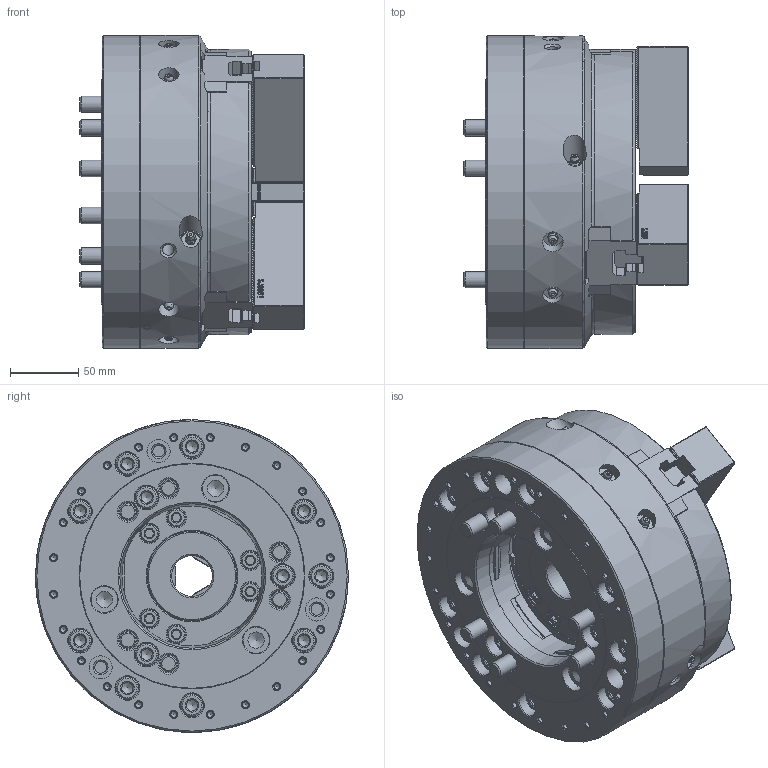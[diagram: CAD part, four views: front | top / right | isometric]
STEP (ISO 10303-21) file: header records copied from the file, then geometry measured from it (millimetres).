
FILE_DESCRIPTION (( 'STEP AP214' ), '1' );
FILE_NAME ('DT1_HOH-208_OUTSIDE_VIEW_UC.STEP', '2024-05-09T06:49:19', ( '' ), ( '' ), 'SwSTEP 2.0', 'SolidWorks 2022', '' );
FILE_SCHEMA (( 'AUTOMOTIVE_DESIGN' ));
Length unit declared in the file: millimetre
Products named in the file (9): DT1_HOH-208_M12x110^DT1_HOH-208_ﾃﾞﾌｫﾙﾄ; DT1_HOH-208_M5x10^DT1_HOH-208_ﾃﾞﾌｫﾙﾄ; DT1_HOH-208_COVER^DT1_HOH-208_ﾃﾞﾌｫﾙﾄ; DT1_HOH-208_TNUT^DT1_HOH-208_ﾃﾞﾌｫﾙﾄ; DT1_HOH-208_OUTSIDE_VIEW_UC; DT1_HOH-208_SOFTJAW^DT1_HOH-208_ﾃﾞﾌｫﾙﾄ; DT1_HOH-208_BASE^DT1_HOH-208_ﾃﾞﾌｫﾙﾄ; DT1_HOH-208_DRAWNUT^DT1_HOH-208_ﾃﾞﾌｫﾙﾄ; DT1_HOH-208_M12x30^DT1_HOH-208_ﾃﾞﾌｫﾙﾄ
Assembly tree (24 placements, depth 2):
  DT1_HOH-208_OUTSIDE_VIEW_UC
    DT1_HOH-208_SOFTJAW^DT1_HOH-208_ﾃﾞﾌｫﾙﾄ  x3
    DT1_HOH-208_TNUT^DT1_HOH-208_ﾃﾞﾌｫﾙﾄ  x3
    DT1_HOH-208_DRAWNUT^DT1_HOH-208_ﾃﾞﾌｫﾙﾄ
    DT1_HOH-208_COVER^DT1_HOH-208_ﾃﾞﾌｫﾙﾄ
    DT1_HOH-208_BASE^DT1_HOH-208_ﾃﾞﾌｫﾙﾄ
    DT1_HOH-208_M5x10^DT1_HOH-208_ﾃﾞﾌｫﾙﾄ  x3
    DT1_HOH-208_M12x30^DT1_HOH-208_ﾃﾞﾌｫﾙﾄ  x6
    DT1_HOH-208_M12x110^DT1_HOH-208_ﾃﾞﾌｫﾙﾄ  x6
Bounding box: 165 x 230 x 230 mm (x, y, z)
Volume: 4046648.4 mm3; surface area: 453704.8 mm2
Topology: 24 solids, 30 shells, 4463 faces, 12356 edges, 8135 vertices
Faces by surface type: plane 3040, cylinder 589, bspline 454, cone 326, torus 39, sphere 15
Full cylindrical faces by diameter (mm): 2 x3, 4.2 x3, 4.3 x24, 5 x3, 5.5 x3, 8.6 x5, 9.5 x3, 10 x3, 10.2 x6, 12 x12, 13 x6, 13.27 x6, 13.5 x12, 14 x6, 15 x6, 16 x3, 16.27 x12, 17 x18, 18.27 x12, 19 x6, 19.46 x3, 20 x6, 30 x1, 52 x1, 56 x2, 61 x1, 64.8 x2, 66 x2, 72 x2, 103 x1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
Entity records: 106387 total; most frequent: CARTESIAN_POINT 33169, ORIENTED_EDGE 15798, DIRECTION 13000, EDGE_CURVE 7899, LINE 5756, VECTOR 5756, VERTEX_POINT 5381, AXIS2_PLACEMENT_3D 3622
